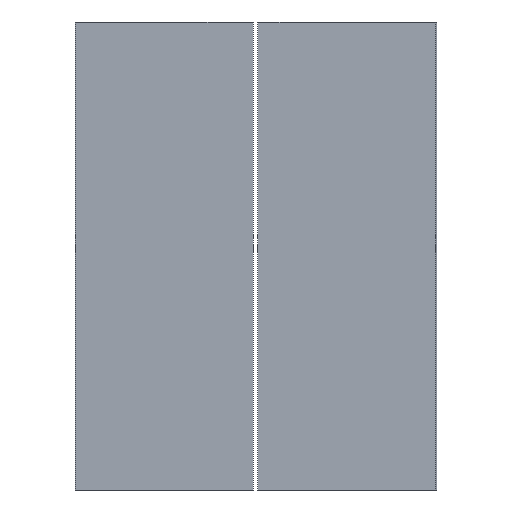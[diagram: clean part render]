
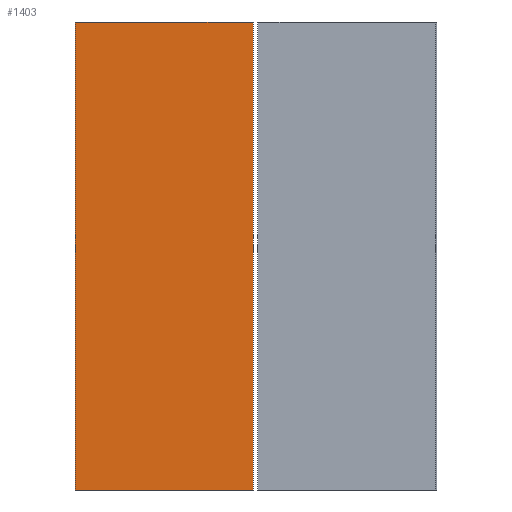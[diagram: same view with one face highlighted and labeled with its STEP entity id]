
A CAD part, front view. The second image highlights one B-rep face of the part: STEP entity #1403.
In plain terms, the highlighted planar face has unit normal (0, -1, 0).
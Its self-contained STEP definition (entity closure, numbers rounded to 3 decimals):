
#129=ORIENTED_EDGE('',*,*,#548,.F.);
#130=ORIENTED_EDGE('',*,*,#547,.F.);
#131=ORIENTED_EDGE('',*,*,#549,.T.);
#132=ORIENTED_EDGE('',*,*,#550,.T.);
#547=EDGE_CURVE('',#756,#755,#897,.T.);
#548=EDGE_CURVE('',#755,#757,#898,.T.);
#549=EDGE_CURVE('',#756,#758,#899,.T.);
#550=EDGE_CURVE('',#758,#757,#900,.T.);
#755=VERTEX_POINT('',#2062);
#756=VERTEX_POINT('',#2064);
#757=VERTEX_POINT('',#2068);
#758=VERTEX_POINT('',#2070);
#897=LINE('',#2065,#1049);
#898=LINE('',#2067,#1050);
#899=LINE('',#2069,#1051);
#900=LINE('',#2071,#1052);
#1049=VECTOR('',#1637,1000.);
#1050=VECTOR('',#1640,1000.);
#1051=VECTOR('',#1641,1000.);
#1052=VECTOR('',#1642,1000.);
#1194=EDGE_LOOP('',(#129,#130,#131,#132));
#1276=FACE_BOUND('',#1194,.T.);
#1358=PLANE('',#1488);
#1403=ADVANCED_FACE('',(#1276),#1358,.T.);
#1488=AXIS2_PLACEMENT_3D('',#2066,#1638,#1639);
#1637=DIRECTION('',(0.,0.,1.));
#1638=DIRECTION('',(0.,-1.,0.));
#1639=DIRECTION('',(0.,0.,-1.));
#1640=DIRECTION('',(1.,0.,0.));
#1641=DIRECTION('',(1.,0.,0.));
#1642=DIRECTION('',(0.,0.,1.));
#2062=CARTESIAN_POINT('',(-38.,0.,0.));
#2064=CARTESIAN_POINT('',(-38.,0.,-200.));
#2065=CARTESIAN_POINT('',(-38.,0.,-200.));
#2066=CARTESIAN_POINT('',(-38.,0.,-200.));
#2067=CARTESIAN_POINT('',(-38.,0.,0.));
#2068=CARTESIAN_POINT('',(38.,0.,0.));
#2069=CARTESIAN_POINT('',(-38.,0.,-200.));
#2070=CARTESIAN_POINT('',(38.,0.,-200.));
#2071=CARTESIAN_POINT('',(38.,0.,-200.));
